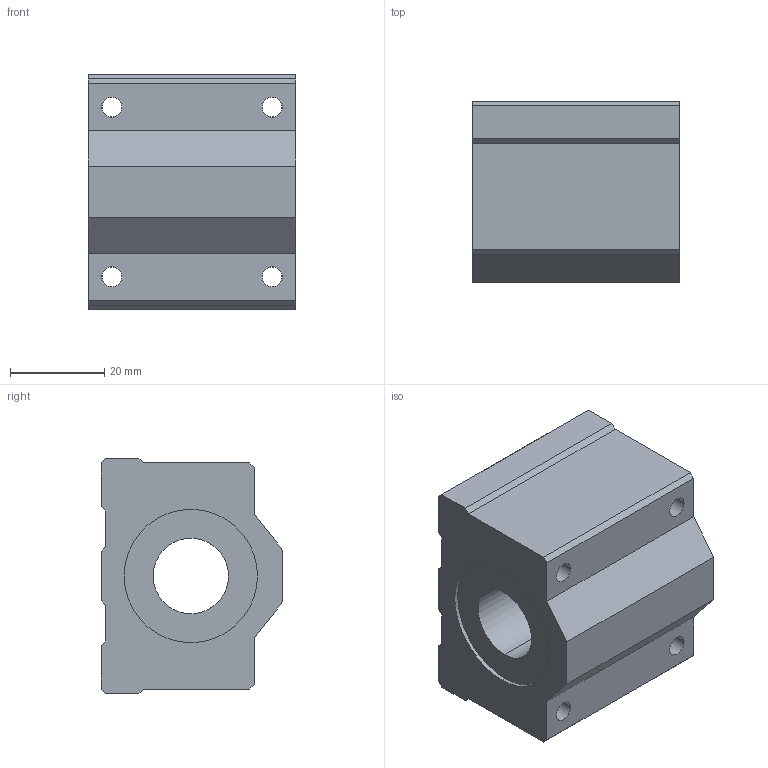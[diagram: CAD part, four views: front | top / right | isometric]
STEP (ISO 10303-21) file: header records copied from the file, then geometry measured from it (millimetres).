
FILE_DESCRIPTION(('FreeCAD Model'),'2;1');
FILE_NAME('Open CASCADE Shape Model','2021-04-30T15:40:18',(''),(''), 'Open CASCADE STEP processor 7.5','FreeCAD','Unknown');
FILE_SCHEMA(('AUTOMOTIVE_DESIGN { 1 0 10303 214 1 1 1 1 }'));
Length unit declared in the file: millimetre
Products named in the file (1): ball_bearing_sc16uu
Bounding box: 44 x 38.5 x 50 mm (x, y, z)
Volume: 61391.8 mm3; surface area: 21054.7 mm2
Topology: 1 solids, 2 shells, 84 faces, 204 edges, 134 vertices
Faces by surface type: plane 38, cylinder 34, cone 8, torus 4
Entity records: 5662 total; most frequent: CARTESIAN_POINT 1107, DIRECTION 826, LINE 452, VECTOR 452, ORIENTED_EDGE 408, PCURVE 408, DEFINITIONAL_REPRESENTATION 408, EDGE_CURVE 204
